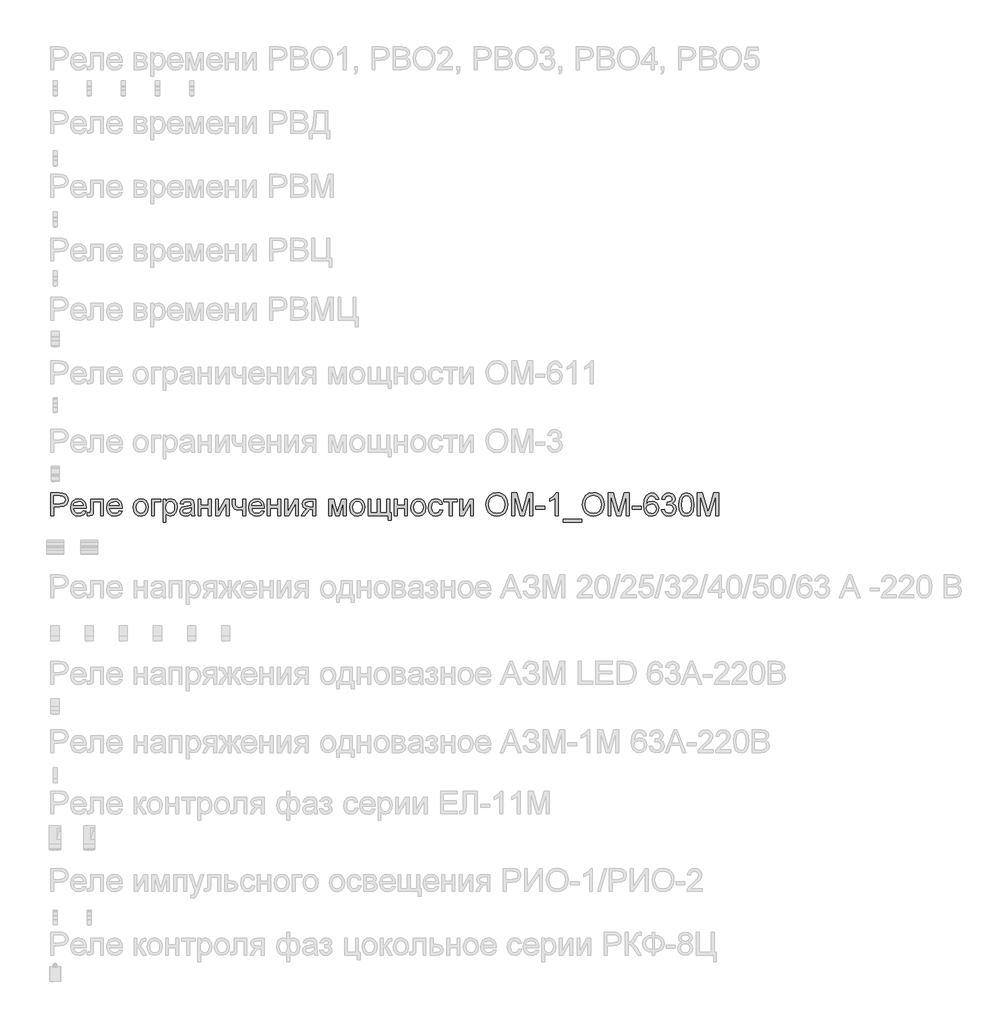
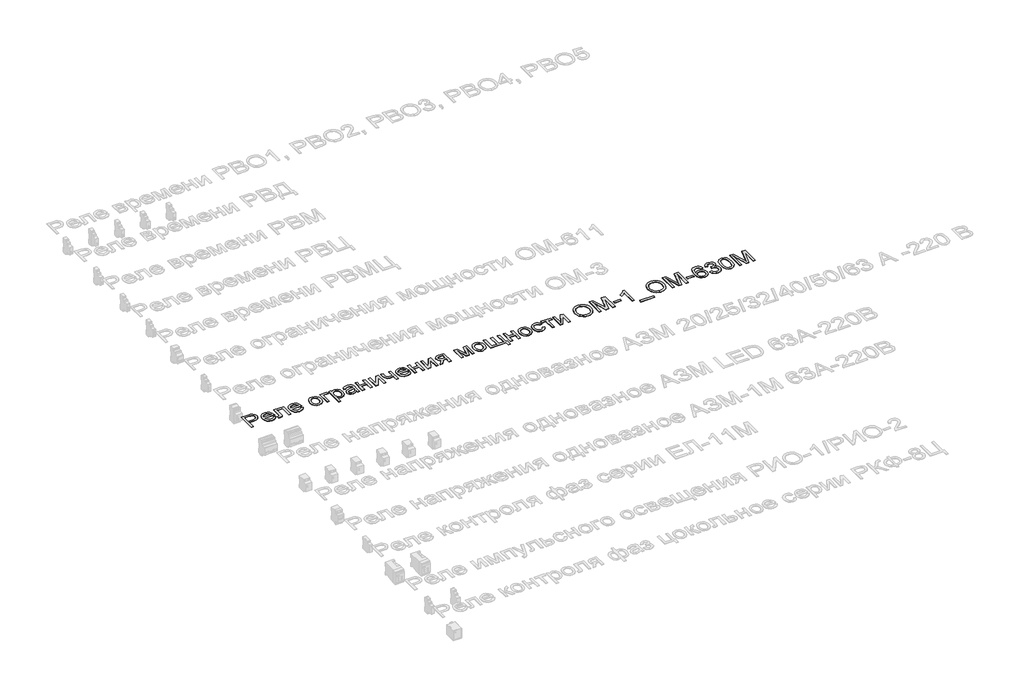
# One storey, part 17 of 34: 1 proxy.
"""IFC4 building model written with IfcOpenShell, lengths in millimetres."""

from ifc_helpers import new_model, si_unit, frame, origin, place, context, project, spatial, polyline, outline, extrude, element, save

model = new_model("IFC4")

# Units and contexts
model_context = context("Model", 3, world=origin())
ifc_project = project(units=[si_unit("LENGTHUNIT", "METRE", prefix="MILLI")], contexts=[model_context])

# Site, building, storey
site = spatial("IfcSite", under=ifc_project)
building = spatial("IfcBuilding", under=site)
storey = spatial("IfcBuildingStorey", under=building, Name="Этаж 01", Elevation=0.0)

# Proxy
placement = place(None, origin())
element("IfcBuildingElementProxy", 1, Name="Надпись на модели 1", ObjectType="Надпись на модели 1", at=placement, inside=storey, context=model_context, shape_type="SweptSolid", body=[
    extrude(outline(polyline([(-19039.0125911, 12636.235284), (-19039.0125911, 12736.6915941), (-19001.7829332, 12736.6915941), (-18986.7733478, 12735.735101), (-18974.5719283, 12731.0384742), (-18966.6624654, 12721.3263895), (-18963.6703585, 12707.6289165), (-18965.6906438, 12695.7892476), (-18971.7514996, 12685.9238788), (-18983.0853308, 12679.2652147), (-19000.9245418, 12677.04566), (-19026.4555523, 12677.04566), (-19026.4555523, 12636.235284), (-19039.0125911, 12636.235284)]), holes=[polyline([(-19026.4555523, 12689.6026988), (-19000.1887779, 12689.6026988), (-18981.6965762, 12694.2134864), (-18977.594692, 12699.7623732), (-18976.2273972, 12707.1874581), (-18979.4524961, 12717.5862559), (-18987.9260447, 12723.2761641), (-19000.4830834, 12724.1345554), (-19026.4555523, 12724.1345554), (-19026.4555523, 12689.6026988)])]), frame((0.0, 0.0, 40.0), z_axis=(0.0, 0.0, 1.0), x_axis=(1.0, 0.0, 0.0)), (0.0, 0.0, 1.0), 2.0),
    extrude(outline(polyline([(-18896.3234279, 12658.2101018), (-18884.0116438, 12656.640472), (-18888.4476875, 12647.3637143), (-18895.5263502, 12640.4291387), (-18905.0882164, 12636.1065253), (-18916.9738705, 12634.6656541), (-18931.7075445, 12637.1519233), (-18943.0444413, 12644.6107308), (-18950.2733225, 12656.5576985), (-18952.6829495, 12672.5084487), (-18950.248797, 12688.9956935), (-18942.9463394, 12701.3258717), (-18931.7627268, 12709.0146054), (-18917.6851091, 12711.5775166), (-18904.0458841, 12709.0207367), (-18893.14738, 12701.3503971), (-18886.0012722, 12689.0447444), (-18883.6192363, 12672.5820251), (-18883.6928127, 12669.1975108), (-18940.1259108, 12669.1975108), (-18937.9523413, 12659.7981258), (-18932.9031609, 12652.8880756), (-18925.6160317, 12648.6390386), (-18916.7286159, 12647.2226929), (-18904.4168318, 12649.8469178), (-18896.3234279, 12658.2101018)]), holes=[polyline([(-18940.1259108, 12681.7545495), (-18896.1762751, 12681.7545495), (-18901.2039957, 12693.1343659), (-18908.5248474, 12697.5489499), (-18917.73416, 12699.0204778), (-18933.1974665, 12694.323851), (-18938.0627059, 12688.8332123), (-18940.1259108, 12681.7545495)])]), frame((0.0, 0.0, 40.0), z_axis=(0.0, 0.0, 1.0), x_axis=(1.0, 0.0, 0.0)), (0.0, 0.0, 1.0), 2.0),
    extrude(outline(polyline([(-18864.7836782, 12710.0078868), (-18808.2770037, 12710.0078868), (-18808.2770037, 12636.3088604), (-18820.8340425, 12636.3088604), (-18820.8340425, 12697.450848), (-18852.2266394, 12697.450848), (-18852.2266394, 12662.2568038), (-18853.072768, 12646.0209451), (-18857.7203439, 12639.1660772), (-18868.7077528, 12636.235284), (-18878.9103468, 12636.8729461), (-18878.9103468, 12648.7923228), (-18873.294015, 12648.7923228), (-18867.6163695, 12649.564875), (-18865.3477639, 12652.0174216), (-18864.7836782, 12662.9680423), (-18864.7836782, 12710.0078868)])), frame((0.0, 0.0, 40.0), z_axis=(0.0, 0.0, 1.0), x_axis=(1.0, 0.0, 0.0)), (0.0, 0.0, 1.0), 2.0),
    extrude(outline(polyline([(-18737.7908134, 12658.2101018), (-18725.4790293, 12656.640472), (-18729.915073, 12647.3637143), (-18736.9937358, 12640.4291387), (-18746.555602, 12636.1065253), (-18758.4412561, 12634.6656541), (-18773.17493, 12637.1519233), (-18784.5118268, 12644.6107308), (-18791.740708, 12656.5576985), (-18794.1503351, 12672.5084487), (-18791.7161826, 12688.9956935), (-18784.4137249, 12701.3258717), (-18773.2301123, 12709.0146054), (-18759.1524946, 12711.5775166), (-18745.5132696, 12709.0207367), (-18734.6147655, 12701.3503971), (-18727.4686578, 12689.0447444), (-18725.0866219, 12672.5820251), (-18725.1601983, 12669.1975108), (-18781.5932963, 12669.1975108), (-18779.4197269, 12659.7981258), (-18774.3705465, 12652.8880756), (-18767.0834173, 12648.6390386), (-18758.1960014, 12647.2226929), (-18745.8842173, 12649.8469178), (-18737.7908134, 12658.2101018)]), holes=[polyline([(-18781.5932963, 12681.7545495), (-18737.6436606, 12681.7545495), (-18742.6713812, 12693.1343659), (-18749.9922329, 12697.5489499), (-18759.2015455, 12699.0204778), (-18774.6648521, 12694.323851), (-18779.5300915, 12688.8332123), (-18781.5932963, 12681.7545495)])]), frame((0.0, 0.0, 40.0), z_axis=(0.0, 0.0, 1.0), x_axis=(1.0, 0.0, 0.0)), (0.0, 0.0, 1.0), 2.0),
    extrude(outline(polyline([(-18676.4280966, 12673.1215854), (-18673.7119012, 12690.9086798), (-18665.563315, 12703.4105363), (-18655.4956111, 12709.5357715), (-18643.4413444, 12711.5775166), (-18630.2497092, 12709.0912475), (-18619.7129557, 12701.63244), (-18612.8059712, 12689.7897054), (-18610.5036431, 12674.151655), (-18614.5748705, 12651.8089551), (-18626.4329335, 12639.1660772), (-18643.4413444, 12634.6656541), (-18656.7923951, 12637.1427262), (-18667.3168859, 12644.5739426), (-18674.1502939, 12656.6649975), (-18676.4280966, 12673.1215854)]), holes=[polyline([(-18663.8710579, 12673.1461108), (-18662.417924, 12661.7816229), (-18658.0585223, 12653.6851533), (-18651.4979601, 12648.838308), (-18643.4413444, 12647.2226929), (-18635.4215169, 12648.8475051), (-18628.8732174, 12653.7219415), (-18624.5138157, 12661.92571), (-18623.0606819, 12673.5385183), (-18624.5230128, 12684.5719125), (-18628.9100056, 12692.5580175), (-18635.4675022, 12697.4048627), (-18643.4413444, 12699.0204778), (-18651.4979601, 12697.4109941), (-18658.0585223, 12692.5825429), (-18662.417924, 12684.5044674), (-18663.8710579, 12673.1461108)])]), frame((0.0, 0.0, 40.0), z_axis=(0.0, 0.0, 1.0), x_axis=(1.0, 0.0, 0.0)), (0.0, 0.0, 1.0), 2.0),
    extrude(outline(polyline([(-18596.3769745, 12710.0078868), (-18555.5665985, 12710.0078868), (-18555.5665985, 12697.450848), (-18583.8199357, 12697.450848), (-18583.8199357, 12636.235284), (-18596.3769745, 12636.235284), (-18596.3769745, 12710.0078868)])), frame((0.0, 0.0, 40.0), z_axis=(0.0, 0.0, 1.0), x_axis=(1.0, 0.0, 0.0)), (0.0, 0.0, 1.0), 2.0),
    extrude(outline(polyline([(-18546.1488194, 12607.9819468), (-18546.1488194, 12710.0078868), (-18533.5917806, 12710.0078868), (-18533.5917806, 12697.6961027), (-18524.9097656, 12708.1071631), (-18513.1865926, 12711.5775166), (-18497.269565, 12706.7214743), (-18486.8707672, 12693.036264), (-18483.3636256, 12673.6856711), (-18487.3244884, 12653.3417968), (-18498.8269321, 12639.4849083), (-18514.7071716, 12634.6656541), (-18525.6332668, 12637.890753), (-18533.5917806, 12646.0454705), (-18533.5917806, 12607.9819468), (-18546.1488194, 12607.9819468)]), holes=[polyline([(-18533.5917806, 12672.5329742), (-18532.2336829, 12661.2757851), (-18528.1593898, 12653.4031104), (-18522.1475849, 12648.7677973), (-18514.9769517, 12647.2226929), (-18507.6898225, 12648.8229796), (-18501.5247334, 12653.6238396), (-18497.3216816, 12661.7846886), (-18495.9206643, 12673.4649419), (-18497.2879591, 12684.6608173), (-18501.3898433, 12692.6438566), (-18507.3924512, 12697.4263225), (-18514.4619169, 12699.0204778), (-18521.5589737, 12697.325155), (-18527.7915078, 12692.2391864), (-18532.1417124, 12683.9219876), (-18533.5917806, 12672.5329742)])]), frame((0.0, 0.0, 40.0), z_axis=(0.0, 0.0, 1.0), x_axis=(1.0, 0.0, 0.0)), (0.0, 0.0, 1.0), 2.0),
    extrude(outline(polyline([(-18422.1480616, 12645.6530631), (-18434.3249556, 12637.1427262), (-18447.7771739, 12634.6656541), (-18458.2710078, 12636.1555762), (-18466.0118581, 12640.6253425), (-18470.785127, 12647.4127653), (-18472.3762166, 12655.8556571), (-18469.9727209, 12665.7884709), (-18463.6574134, 12672.998958), (-18454.8650337, 12677.1192364), (-18444.0002521, 12679.0076973), (-18422.221638, 12683.3241794), (-18422.1480616, 12686.1200825), (-18425.6061523, 12695.3907088), (-18439.4875663, 12699.0204778), (-18452.1917578, 12696.6047194), (-18458.249548, 12688.0330689), (-18470.8065868, 12689.6026988), (-18465.374196, 12701.8654319), (-18454.435838, 12709.0513936), (-18437.8688855, 12711.5775166), (-18422.6508336, 12709.3456992), (-18414.0546577, 12703.7416301), (-18410.2041595, 12695.2190306), (-18409.5910228, 12684.2316216), (-18409.5910228, 12668.6088996), (-18408.9533607, 12646.7934973), (-18406.4517631, 12636.235284), (-18419.0088019, 12636.235284), (-18422.1480616, 12645.6530631)]), holes=[polyline([(-18422.1480616, 12670.7671406), (-18442.4060968, 12666.9166424), (-18453.2095647, 12664.8810287), (-18458.1023952, 12661.5700907), (-18459.8191779, 12656.7385739), (-18456.0790443, 12649.9450197), (-18445.1038981, 12647.2226929), (-18432.3997065, 12650.2270625), (-18424.2082007, 12657.4988633), (-18422.221638, 12667.210948), (-18422.1480616, 12670.7671406)])]), frame((0.0, 0.0, 40.0), z_axis=(0.0, 0.0, 1.0), x_axis=(1.0, 0.0, 0.0)), (0.0, 0.0, 1.0), 2.0),
    extrude(outline(polyline([(-18392.3250945, 12710.0078868), (-18379.7680557, 12710.0078868), (-18379.7680557, 12681.7545495), (-18346.805829, 12681.7545495), (-18346.805829, 12710.0078868), (-18334.2487902, 12710.0078868), (-18334.2487902, 12636.235284), (-18346.805829, 12636.235284), (-18346.805829, 12669.1975108), (-18379.7680557, 12669.1975108), (-18379.7680557, 12636.235284), (-18392.3250945, 12636.235284), (-18392.3250945, 12710.0078868)])), frame((0.0, 0.0, 40.0), z_axis=(0.0, 0.0, 1.0), x_axis=(1.0, 0.0, 0.0)), (0.0, 0.0, 1.0), 2.0),
    extrude(outline(polyline([(-18315.413232, 12710.0078868), (-18302.8561933, 12710.0078868), (-18302.8561933, 12653.746467), (-18272.0031566, 12710.0078868), (-18255.7672979, 12710.0078868), (-18255.7672979, 12636.235284), (-18268.3243366, 12636.235284), (-18268.3243366, 12692.1533473), (-18298.9811696, 12636.235284), (-18315.413232, 12636.235284), (-18315.413232, 12710.0078868)])), frame((0.0, 0.0, 40.0), z_axis=(0.0, 0.0, 1.0), x_axis=(1.0, 0.0, 0.0)), (0.0, 0.0, 1.0), 2.0),
    extrude(outline(polyline([(-18241.6406293, 12710.0078868), (-18229.0835905, 12710.0078868), (-18229.0835905, 12695.8566927), (-18228.0657836, 12682.5884154), (-18223.1729531, 12675.4024537), (-18213.4608684, 12672.3367705), (-18196.1213637, 12676.1382177), (-18196.1213637, 12710.0078868), (-18183.564325, 12710.0078868), (-18183.564325, 12636.235284), (-18196.1213637, 12636.235284), (-18196.1213637, 12664.0962138), (-18216.8208573, 12659.7797317), (-18231.0578905, 12664.2801548), (-18239.4333373, 12675.3043519), (-18241.6406293, 12689.6517497), (-18241.6406293, 12710.0078868)])), frame((0.0, 0.0, 40.0), z_axis=(0.0, 0.0, 1.0), x_axis=(1.0, 0.0, 0.0)), (0.0, 0.0, 1.0), 2.0),
    extrude(outline(polyline([(-18113.0781347, 12658.2101018), (-18100.7663506, 12656.640472), (-18105.2023943, 12647.3637143), (-18112.281057, 12640.4291387), (-18121.8429232, 12636.1065253), (-18133.7285773, 12634.6656541), (-18148.4622513, 12637.1519233), (-18159.7991481, 12644.6107308), (-18167.0280293, 12656.5576985), (-18169.4376563, 12672.5084487), (-18167.0035038, 12688.9956935), (-18159.7010462, 12701.3258717), (-18148.5174336, 12709.0146054), (-18134.4398159, 12711.5775166), (-18120.8005909, 12709.0207367), (-18109.9020868, 12701.3503971), (-18102.755979, 12689.0447444), (-18100.3739431, 12672.5820251), (-18100.4475195, 12669.1975108), (-18156.8806176, 12669.1975108), (-18154.7070481, 12659.7981258), (-18149.6578677, 12652.8880756), (-18142.3707385, 12648.6390386), (-18133.4833227, 12647.2226929), (-18121.1715386, 12649.8469178), (-18113.0781347, 12658.2101018)]), holes=[polyline([(-18156.8806176, 12681.7545495), (-18112.9309819, 12681.7545495), (-18117.9587025, 12693.1343659), (-18125.2795542, 12697.5489499), (-18134.4888668, 12699.0204778), (-18149.9521733, 12694.323851), (-18154.8174127, 12688.8332123), (-18156.8806176, 12681.7545495)])]), frame((0.0, 0.0, 40.0), z_axis=(0.0, 0.0, 1.0), x_axis=(1.0, 0.0, 0.0)), (0.0, 0.0, 1.0), 2.0),
    extrude(outline(polyline([(-18087.8169043, 12710.0078868), (-18075.2598656, 12710.0078868), (-18075.2598656, 12681.7545495), (-18042.2976388, 12681.7545495), (-18042.2976388, 12710.0078868), (-18029.7406, 12710.0078868), (-18029.7406, 12636.235284), (-18042.2976388, 12636.235284), (-18042.2976388, 12669.1975108), (-18075.2598656, 12669.1975108), (-18075.2598656, 12636.235284), (-18087.8169043, 12636.235284), (-18087.8169043, 12710.0078868)])), frame((0.0, 0.0, 40.0), z_axis=(0.0, 0.0, 1.0), x_axis=(1.0, 0.0, 0.0)), (0.0, 0.0, 1.0), 2.0),
    extrude(outline(polyline([(-18010.9050419, 12710.0078868), (-17998.3480031, 12710.0078868), (-17998.3480031, 12653.746467), (-17967.4949665, 12710.0078868), (-17951.2591077, 12710.0078868), (-17951.2591077, 12636.235284), (-17963.8161465, 12636.235284), (-17963.8161465, 12692.1533473), (-17994.4729794, 12636.235284), (-18010.9050419, 12636.235284), (-18010.9050419, 12710.0078868)])), frame((0.0, 0.0, 40.0), z_axis=(0.0, 0.0, 1.0), x_axis=(1.0, 0.0, 0.0)), (0.0, 0.0, 1.0), 2.0),
    extrude(outline(polyline([(-17875.9168751, 12710.0078868), (-17875.9168751, 12636.235284), (-17888.4739139, 12636.235284), (-17888.4739139, 12664.4886212), (-17895.316519, 12664.4886212), (-17904.6361962, 12662.8944659), (-17913.3917877, 12652.1768371), (-17923.398178, 12636.235284), (-17937.917254, 12636.235284), (-17925.3111643, 12656.3952173), (-17914.618061, 12666.843066), (-17923.2019742, 12669.4734223), (-17929.235239, 12674.470486), (-17933.9931794, 12688.6952565), (-17932.3683673, 12697.2914325), (-17927.4939309, 12704.0972494), (-17919.5415484, 12708.5302274), (-17908.6828982, 12710.0078868), (-17875.9168751, 12710.0078868)]), holes=[polyline([(-17888.4739139, 12697.450848), (-17905.0286037, 12697.450848), (-17918.431771, 12694.5445802), (-17921.4361407, 12687.7387633), (-17917.009294, 12679.6330967), (-17901.3252583, 12677.04566), (-17888.4739139, 12677.04566), (-17888.4739139, 12697.450848)])]), frame((0.0, 0.0, 40.0), z_axis=(0.0, 0.0, 1.0), x_axis=(1.0, 0.0, 0.0)), (0.0, 0.0, 1.0), 2.0),
    extrude(outline(polyline([(-17817.8405708, 12710.0078868), (-17796.233635, 12710.0078868), (-17779.5808433, 12650.9505638), (-17761.628202, 12710.0078868), (-17740.9287084, 12710.0078868), (-17740.9287084, 12636.235284), (-17753.4857471, 12636.235284), (-17753.4857471, 12695.6359635), (-17771.5364904, 12636.235284), (-17788.0176037, 12636.235284), (-17805.2835321, 12698.4809176), (-17805.2835321, 12636.235284), (-17817.8405708, 12636.235284), (-17817.8405708, 12710.0078868)])), frame((0.0, 0.0, 40.0), z_axis=(0.0, 0.0, 1.0), x_axis=(1.0, 0.0, 0.0)), (0.0, 0.0, 1.0), 2.0),
    extrude(outline(polyline([(-17725.2324099, 12673.1215854), (-17722.5162145, 12690.9086798), (-17714.3676283, 12703.4105363), (-17704.2999244, 12709.5357715), (-17692.2456577, 12711.5775166), (-17679.0540225, 12709.0912475), (-17668.517269, 12701.63244), (-17661.6102845, 12689.7897054), (-17659.3079564, 12674.151655), (-17663.3791838, 12651.8089551), (-17675.2372468, 12639.1660772), (-17692.2456577, 12634.6656541), (-17705.5967084, 12637.1427262), (-17716.1211992, 12644.5739426), (-17722.9546072, 12656.6649975), (-17725.2324099, 12673.1215854)]), holes=[polyline([(-17712.6753711, 12673.1461108), (-17711.2222373, 12661.7816229), (-17706.8628356, 12653.6851533), (-17700.3022734, 12648.838308), (-17692.2456577, 12647.2226929), (-17684.2258302, 12648.8475051), (-17677.6775307, 12653.7219415), (-17673.318129, 12661.92571), (-17671.8649951, 12673.5385183), (-17673.3273261, 12684.5719125), (-17677.7143189, 12692.5580175), (-17684.2718154, 12697.4048627), (-17692.2456577, 12699.0204778), (-17700.3022734, 12697.4109941), (-17706.8628356, 12692.5825429), (-17711.2222373, 12684.5044674), (-17712.6753711, 12673.1461108)])]), frame((0.0, 0.0, 40.0), z_axis=(0.0, 0.0, 1.0), x_axis=(1.0, 0.0, 0.0)), (0.0, 0.0, 1.0), 2.0),
    extrude(outline(polyline([(-17645.1812878, 12710.0078868), (-17632.624249, 12710.0078868), (-17632.624249, 12648.7923228), (-17604.3709118, 12648.7923228), (-17604.3709118, 12710.0078868), (-17591.813873, 12710.0078868), (-17591.813873, 12648.7923228), (-17563.5605358, 12648.7923228), (-17563.5605358, 12710.0078868), (-17551.003497, 12710.0078868), (-17551.003497, 12648.7923228), (-17543.1553478, 12648.7923228), (-17543.1553478, 12615.830096), (-17555.7123865, 12615.830096), (-17555.7123865, 12636.235284), (-17645.1812878, 12636.235284), (-17645.1812878, 12710.0078868)])), frame((0.0, 0.0, 40.0), z_axis=(0.0, 0.0, 1.0), x_axis=(1.0, 0.0, 0.0)), (0.0, 0.0, 1.0), 2.0),
    extrude(outline(polyline([(-17530.598309, 12710.0078868), (-17518.0412702, 12710.0078868), (-17518.0412702, 12681.7545495), (-17485.0790435, 12681.7545495), (-17485.0790435, 12710.0078868), (-17472.5220047, 12710.0078868), (-17472.5220047, 12636.235284), (-17485.0790435, 12636.235284), (-17485.0790435, 12669.1975108), (-17518.0412702, 12669.1975108), (-17518.0412702, 12636.235284), (-17530.598309, 12636.235284), (-17530.598309, 12710.0078868)])), frame((0.0, 0.0, 40.0), z_axis=(0.0, 0.0, 1.0), x_axis=(1.0, 0.0, 0.0)), (0.0, 0.0, 1.0), 2.0),
    extrude(outline(polyline([(-17456.8257062, 12673.1215854), (-17454.1095108, 12690.9086798), (-17445.9609246, 12703.4105363), (-17435.8932207, 12709.5357715), (-17423.838954, 12711.5775166), (-17410.6473188, 12709.0912475), (-17400.1105653, 12701.63244), (-17393.2035808, 12689.7897054), (-17390.9012527, 12674.151655), (-17394.9724801, 12651.8089551), (-17406.8305431, 12639.1660772), (-17423.838954, 12634.6656541), (-17437.1900047, 12637.1427262), (-17447.7144955, 12644.5739426), (-17454.5479035, 12656.6649975), (-17456.8257062, 12673.1215854)]), holes=[polyline([(-17444.2686675, 12673.1461108), (-17442.8155336, 12661.7816229), (-17438.4561319, 12653.6851533), (-17431.8955697, 12648.838308), (-17423.838954, 12647.2226929), (-17415.8191265, 12648.8475051), (-17409.270827, 12653.7219415), (-17404.9114253, 12661.92571), (-17403.4582915, 12673.5385183), (-17404.9206224, 12684.5719125), (-17409.3076152, 12692.5580175), (-17415.8651117, 12697.4048627), (-17423.838954, 12699.0204778), (-17431.8955697, 12697.4109941), (-17438.4561319, 12692.5825429), (-17442.8155336, 12684.5044674), (-17444.2686675, 12673.1461108)])]), frame((0.0, 0.0, 40.0), z_axis=(0.0, 0.0, 1.0), x_axis=(1.0, 0.0, 0.0)), (0.0, 0.0, 1.0), 2.0),
    extrude(outline(polyline([(-17329.6856887, 12662.9189914), (-17317.1286499, 12661.3493615), (-17320.6296602, 12650.1810773), (-17327.2086166, 12641.7412512), (-17336.2462509, 12636.4345534), (-17347.1232953, 12634.6656541), (-17360.4804774, 12637.1335292), (-17370.9252603, 12644.5371544), (-17377.6666979, 12656.5515672), (-17379.9138438, 12672.8518052), (-17376.0756083, 12693.7107144), (-17364.3769608, 12707.1138817), (-17347.2949735, 12711.5775166), (-17336.6846436, 12710.044675), (-17328.201898, 12705.44615), (-17322.1165166, 12698.0271964), (-17318.6982798, 12688.0330689), (-17331.2553185, 12686.4634391), (-17337.0801168, 12695.8689554), (-17347.1968717, 12699.0204778), (-17355.3117353, 12697.4692421), (-17361.7527359, 12692.8155349), (-17365.9557877, 12684.8079701), (-17367.356805, 12673.1951618), (-17365.9864446, 12661.4260036), (-17361.8753633, 12653.3908477), (-17355.5508586, 12648.7647316), (-17347.5402282, 12647.2226929), (-17335.7066907, 12651.0731911), (-17329.6856887, 12662.9189914)])), frame((0.0, 0.0, 40.0), z_axis=(0.0, 0.0, 1.0), x_axis=(1.0, 0.0, 0.0)), (0.0, 0.0, 1.0), 2.0),
    extrude(outline(polyline([(-17312.4197604, 12710.0078868), (-17252.7738262, 12710.0078868), (-17252.7738262, 12697.450848), (-17276.3182739, 12697.450848), (-17276.3182739, 12636.235284), (-17288.8753127, 12636.235284), (-17288.8753127, 12697.450848), (-17312.4197604, 12697.450848), (-17312.4197604, 12710.0078868)])), frame((0.0, 0.0, 40.0), z_axis=(0.0, 0.0, 1.0), x_axis=(1.0, 0.0, 0.0)), (0.0, 0.0, 1.0), 2.0),
    extrude(outline(polyline([(-17241.7864173, 12710.0078868), (-17229.2293785, 12710.0078868), (-17229.2293785, 12653.746467), (-17198.3763419, 12710.0078868), (-17182.1404832, 12710.0078868), (-17182.1404832, 12636.235284), (-17194.6975219, 12636.235284), (-17194.6975219, 12692.1533473), (-17225.3543549, 12636.235284), (-17241.7864173, 12636.235284), (-17241.7864173, 12710.0078868)])), frame((0.0, 0.0, 40.0), z_axis=(0.0, 0.0, 1.0), x_axis=(1.0, 0.0, 0.0)), (0.0, 0.0, 1.0), 2.0),
    extrude(outline(polyline([(-17127.2034385, 12685.1390639), (-17123.8557124, 12707.353005), (-17113.8125339, 12724.1590808), (-17098.4779861, 12734.7356882), (-17079.2561518, 12738.261224), (-17066.079845, 12736.605755), (-17054.2647016, 12731.6393481), (-17044.4545151, 12723.7114911), (-17037.2930789, 12713.1716719), (-17032.9152832, 12700.528794), (-17031.4560179, 12686.2917608), (-17032.9919253, 12671.8646552), (-17037.5996473, 12659.0439677), (-17045.0247322, 12648.4857544), (-17055.0127284, 12640.8460717), (-17066.7267042, 12636.2107585), (-17079.3297282, 12634.6656541), (-17092.7083701, 12636.3732397), (-17104.5909586, 12641.4959965), (-17114.3766196, 12649.5710063), (-17121.4644794, 12660.1353509), (-17127.2034385, 12685.1390639)]), holes=[polyline([(-17114.6463998, 12685.0164366), (-17112.1356052, 12669.301744), (-17104.6032213, 12657.327185), (-17093.2816529, 12649.7488159), (-17079.4033046, 12647.2226929), (-17065.3226213, 12649.7733414), (-17053.9826588, 12657.4252869), (-17046.5054572, 12669.7677279), (-17044.0130567, 12686.3898627), (-17048.2804878, 12707.1138817), (-17060.7516875, 12720.8358802), (-17079.1825754, 12725.7041852), (-17092.689976, 12723.3589375), (-17104.1740256, 12716.3231943), (-17112.0283062, 12703.8060095), (-17114.6463998, 12685.0164366)])]), frame((0.0, 0.0, 40.0), z_axis=(0.0, 0.0, 1.0), x_axis=(1.0, 0.0, 0.0)), (0.0, 0.0, 1.0), 2.0),
    extrude(outline(polyline([(-17014.1900896, 12636.235284), (-17014.1900896, 12736.6915941), (-16992.5831538, 12736.6915941), (-16972.030813, 12665.8865728), (-16967.8860092, 12651.0977166), (-16963.3978488, 12667.1128461), (-16943.1888646, 12736.6915941), (-16921.5819287, 12736.6915941), (-16921.5819287, 12636.235284), (-16934.1389675, 12636.235284), (-16934.1389675, 12724.1345554), (-16959.3756723, 12636.235284), (-16976.396346, 12636.235284), (-17001.6330509, 12724.1345554), (-17001.6330509, 12636.235284), (-17014.1900896, 12636.235284)])), frame((0.0, 0.0, 40.0), z_axis=(0.0, 0.0, 1.0), x_axis=(1.0, 0.0, 0.0)), (0.0, 0.0, 1.0), 2.0),
    extrude(outline(polyline([(-16907.4552601, 12666.0582511), (-16907.4552601, 12678.6152898), (-16868.2145139, 12678.6152898), (-16868.2145139, 12666.0582511), (-16907.4552601, 12666.0582511)])), frame((0.0, 0.0, 40.0), z_axis=(0.0, 0.0, 1.0), x_axis=(1.0, 0.0, 0.0)), (0.0, 0.0, 1.0), 2.0),
    extrude(outline(polyline([(-16810.1382096, 12636.235284), (-16822.6952484, 12636.235284), (-16822.6952484, 12714.5205726), (-16834.5900996, 12706.0470239), (-16847.8093259, 12699.7071909), (-16847.8093259, 12711.5775166), (-16829.4029634, 12723.325215), (-16818.2316135, 12736.6915941), (-16810.1382096, 12736.6915941), (-16810.1382096, 12636.235284)])), frame((0.0, 0.0, 40.0), z_axis=(0.0, 0.0, 1.0), x_axis=(1.0, 0.0, 0.0)), (0.0, 0.0, 1.0), 2.0),
    extrude(outline(polyline([(-16788.1633918, 12607.9819468), (-16788.1633918, 12620.5389855), (-16706.5426398, 12620.5389855), (-16706.5426398, 12607.9819468), (-16788.1633918, 12607.9819468)])), frame((0.0, 0.0, 40.0), z_axis=(0.0, 0.0, 1.0), x_axis=(1.0, 0.0, 0.0)), (0.0, 0.0, 1.0), 2.0),
    extrude(outline(polyline([(-16703.4033801, 12685.1390639), (-16700.0556539, 12707.353005), (-16690.0124755, 12724.1590808), (-16674.6779276, 12734.7356882), (-16655.4560934, 12738.261224), (-16642.2797866, 12736.605755), (-16630.4646432, 12731.6393481), (-16620.6544567, 12723.7114911), (-16613.4930205, 12713.1716719), (-16609.1152247, 12700.528794), (-16607.6559595, 12686.2917608), (-16609.1918668, 12671.8646552), (-16613.7995888, 12659.0439677), (-16621.2246737, 12648.4857544), (-16631.2126699, 12640.8460717), (-16642.9266458, 12636.2107585), (-16655.5296698, 12634.6656541), (-16668.9083117, 12636.3732397), (-16680.7909001, 12641.4959965), (-16690.5765612, 12649.5710063), (-16697.664421, 12660.1353509), (-16703.4033801, 12685.1390639)]), holes=[polyline([(-16690.8463413, 12685.0164366), (-16688.3355467, 12669.301744), (-16680.8031629, 12657.327185), (-16669.4815945, 12649.7488159), (-16655.6032462, 12647.2226929), (-16641.5225628, 12649.7733414), (-16630.1826003, 12657.4252869), (-16622.7053988, 12669.7677279), (-16620.2129983, 12686.3898627), (-16624.4804294, 12707.1138817), (-16636.951629, 12720.8358802), (-16655.382517, 12725.7041852), (-16668.8899176, 12723.3589375), (-16680.3739672, 12716.3231943), (-16688.2282478, 12703.8060095), (-16690.8463413, 12685.0164366)])]), frame((0.0, 0.0, 40.0), z_axis=(0.0, 0.0, 1.0), x_axis=(1.0, 0.0, 0.0)), (0.0, 0.0, 1.0), 2.0),
    extrude(outline(polyline([(-16590.3900312, 12636.235284), (-16590.3900312, 12736.6915941), (-16568.7830953, 12736.6915941), (-16548.2307545, 12665.8865728), (-16544.0859507, 12651.0977166), (-16539.5977904, 12667.1128461), (-16519.3888061, 12736.6915941), (-16497.7818703, 12736.6915941), (-16497.7818703, 12636.235284), (-16510.338909, 12636.235284), (-16510.338909, 12724.1345554), (-16535.5756139, 12636.235284), (-16552.5962875, 12636.235284), (-16577.8329924, 12724.1345554), (-16577.8329924, 12636.235284), (-16590.3900312, 12636.235284)])), frame((0.0, 0.0, 40.0), z_axis=(0.0, 0.0, 1.0), x_axis=(1.0, 0.0, 0.0)), (0.0, 0.0, 1.0), 2.0),
    extrude(outline(polyline([(-16483.6552016, 12666.0582511), (-16483.6552016, 12678.6152898), (-16444.4144555, 12678.6152898), (-16444.4144555, 12666.0582511), (-16483.6552016, 12666.0582511)])), frame((0.0, 0.0, 40.0), z_axis=(0.0, 0.0, 1.0), x_axis=(1.0, 0.0, 0.0)), (0.0, 0.0, 1.0), 2.0),
    extrude(outline(polyline([(-16369.0722229, 12710.0078868), (-16381.6292617, 12708.4382569), (-16386.3872021, 12718.910631), (-16398.9687664, 12724.1345554), (-16410.2995318, 12721.0933975), (-16418.8711823, 12709.676793), (-16422.4396376, 12687.2973049), (-16411.3663896, 12697.3159579), (-16397.6443912, 12700.5901077), (-16386.0438456, 12698.3521589), (-16376.3072355, 12691.6383125), (-16369.7037536, 12681.3805362), (-16367.502593, 12668.5107977), (-16371.6473968, 12651.1835557), (-16383.0517387, 12638.9208226), (-16399.5083266, 12634.6656541), (-16413.7545569, 12637.4860828), (-16425.1006507, 12645.9473687), (-16432.52267, 12660.8833777), (-16434.9966764, 12683.1279756), (-16432.2498242, 12708.13782), (-16424.0092675, 12725.2382014), (-16412.7582098, 12733.8282459), (-16398.1839514, 12736.6915941), (-16387.1658857, 12734.9196292), (-16378.3428492, 12729.6037344), (-16372.1624316, 12721.1608426), (-16369.0722229, 12710.0078868)]), holes=[polyline([(-16422.4396376, 12668.7070014), (-16419.5333699, 12657.8299571), (-16411.807848, 12649.9327569), (-16400.4893453, 12647.2226929), (-16392.2028033, 12648.6267759), (-16385.6882263, 12652.8390247), (-16381.4667804, 12659.4609006), (-16380.0596318, 12668.0938648), (-16381.4483863, 12676.3804067), (-16385.6146499, 12682.69878), (-16392.2395915, 12686.6994967), (-16401.0043801, 12688.0330689), (-16416.1979065, 12682.69878), (-16420.8792049, 12676.5336909), (-16422.4396376, 12668.7070014)])]), frame((0.0, 0.0, 40.0), z_axis=(0.0, 0.0, 1.0), x_axis=(1.0, 0.0, 0.0)), (0.0, 0.0, 1.0), 2.0),
    extrude(outline(polyline([(-16356.5151841, 12662.9189914), (-16343.9581453, 12664.4886212), (-16337.0297011, 12651.2693949), (-16324.0679921, 12647.2226929), (-16315.4595535, 12648.6145131), (-16308.8131521, 12652.7899738), (-16303.1477693, 12666.5732859), (-16308.7641011, 12679.5595203), (-16323.0379226, 12684.6976055), (-16331.842565, 12683.3241794), (-16330.4446134, 12695.8812181), (-16328.4335251, 12695.7340653), (-16314.1842292, 12699.3393089), (-16309.4385515, 12703.9133084), (-16307.8566589, 12710.4248197), (-16312.4429211, 12720.247269), (-16324.2641959, 12724.1345554), (-16336.2326234, 12720.2104808), (-16342.3885155, 12708.4382569), (-16354.9455543, 12710.0078868), (-16351.2483402, 12721.2834699), (-16344.6693839, 12729.7018362), (-16335.6685377, 12734.9441547), (-16324.7056543, 12736.6915941), (-16309.5611788, 12733.2457661), (-16298.9661773, 12723.827987), (-16295.2996201, 12711.1605837), (-16298.7822363, 12699.5845636), (-16309.0829322, 12691.2704305), (-16295.397722, 12682.6865173), (-16290.5907306, 12666.3525567), (-16292.9942263, 12654.114349), (-16300.2047134, 12643.8872295), (-16311.0878891, 12636.971048), (-16324.5094505, 12634.6656541), (-16336.6495564, 12636.6338228), (-16346.5333193, 12642.5383288), (-16353.4065813, 12651.5698318), (-16356.5151841, 12662.9189914)])), frame((0.0, 0.0, 40.0), z_axis=(0.0, 0.0, 1.0), x_axis=(1.0, 0.0, 0.0)), (0.0, 0.0, 1.0), 2.0),
    extrude(outline(polyline([(-16279.6033217, 12685.6540987), (-16275.912239, 12714.5573608), (-16264.9493555, 12731.2224151), (-16246.6410949, 12736.6915941), (-16231.974866, 12733.4542326), (-16221.8458484, 12724.1222926), (-16215.9597365, 12709.25986), (-16213.6788681, 12685.6540987), (-16217.3331626, 12656.8734639), (-16228.2592579, 12640.1716213), (-16236.4906175, 12636.0421459), (-16246.6410949, 12634.6656541), (-16259.688643, 12637.0568871), (-16269.5969314, 12644.230586), (-16277.1017241, 12661.2206028), (-16279.6033217, 12685.6540987)]), holes=[polyline([(-16267.0462829, 12685.6786241), (-16265.5747549, 12665.9264267), (-16261.160171, 12654.4944937), (-16254.587346, 12649.0406431), (-16246.6410949, 12647.2226929), (-16238.6948438, 12649.0467745), (-16232.1220188, 12654.5190192), (-16227.7074349, 12665.9570835), (-16226.2359069, 12685.6786241), (-16227.6583839, 12704.9862975), (-16231.9258151, 12716.5071353), (-16238.4863773, 12722.2277004), (-16246.7882477, 12724.1345554), (-16254.6486596, 12722.4545609), (-16260.9639672, 12717.4145776), (-16265.525704, 12705.1763699), (-16267.0462829, 12685.6786241)])]), frame((0.0, 0.0, 40.0), z_axis=(0.0, 0.0, 1.0), x_axis=(1.0, 0.0, 0.0)), (0.0, 0.0, 1.0), 2.0),
    extrude(outline(polyline([(-16197.9825697, 12636.235284), (-16197.9825697, 12736.6915941), (-16176.3756338, 12736.6915941), (-16155.823293, 12665.8865728), (-16151.6784892, 12651.0977166), (-16147.1903289, 12667.1128461), (-16126.9813446, 12736.6915941), (-16105.3744087, 12736.6915941), (-16105.3744087, 12636.235284), (-16117.9314475, 12636.235284), (-16117.9314475, 12724.1345554), (-16143.1681524, 12636.235284), (-16160.188826, 12636.235284), (-16185.4255309, 12724.1345554), (-16185.4255309, 12636.235284), (-16197.9825697, 12636.235284)])), frame((0.0, 0.0, 40.0), z_axis=(0.0, 0.0, 1.0), x_axis=(1.0, 0.0, 0.0)), (0.0, 0.0, 1.0), 2.0),
])

save(model, "model.ifc")
